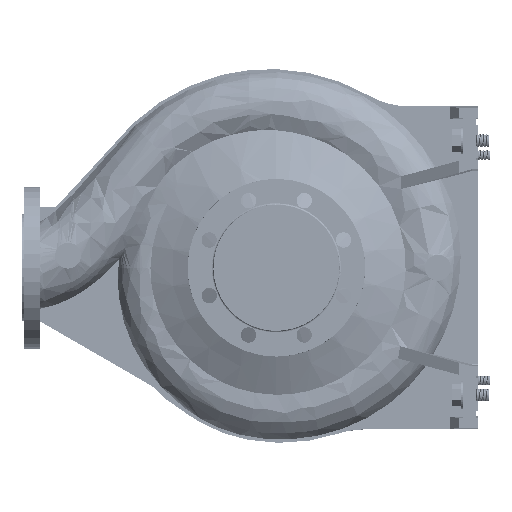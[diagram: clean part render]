
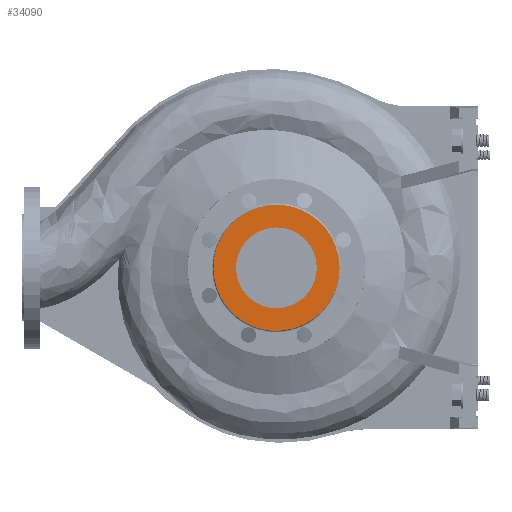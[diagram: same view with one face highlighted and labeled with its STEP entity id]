
A CAD part, left-side view. The second image highlights one B-rep face of the part: STEP entity #34090.
In plain terms, the highlighted planar face has unit normal (-1, 0, 0).
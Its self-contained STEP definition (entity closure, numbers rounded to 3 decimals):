
#8400 = CARTESIAN_POINT ( 'NONE',  ( -125., 156., 78. ) ) ;
#9596 = EDGE_CURVE ( 'NONE', #176977, #68919, #152512, .T. ) ;
#10715 = DIRECTION ( 'NONE',  ( 1., 0., 0. ) ) ;
#12800 = EDGE_LOOP ( 'NONE', ( #105235, #57014 ) ) ;
#24686 = AXIS2_PLACEMENT_3D ( 'NONE', #32736, #10715, #163891 ) ;
#27999 = CARTESIAN_POINT ( 'NONE',  ( -125., 156., -78. ) ) ;
#28378 = CARTESIAN_POINT ( 'NONE',  ( -125., 0., 0. ) ) ;
#32736 = CARTESIAN_POINT ( 'NONE',  ( -125., 0., 0. ) ) ;
#34090 = ADVANCED_FACE ( 'NONE', ( #75987, #94439 ), #183917, .T. ) ;
#37760 = CARTESIAN_POINT ( 'NONE',  ( -125., 50., 0. ) ) ;
#38413 = ORIENTED_EDGE ( 'NONE', *, *, #9596, .T. ) ;
#46788 = AXIS2_PLACEMENT_3D ( 'NONE', #28378, #84766, #196325 ) ;
#52557 = EDGE_CURVE ( 'NONE', #134102, #139238, #95772, .T. ) ;
#52778 = DIRECTION ( 'NONE',  ( -1., 0., 0. ) ) ;
#57014 = ORIENTED_EDGE ( 'NONE', *, *, #52557, .T. ) ;
#58149 = EDGE_LOOP ( 'NONE', ( #215854, #38413 ) ) ;
#68919 = VERTEX_POINT ( 'NONE', #91972 ) ;
#72026 = CARTESIAN_POINT ( 'NONE',  ( -125., 0., -78. ) ) ;
#72347 = DIRECTION ( 'NONE',  ( 0., 0., 1. ) ) ;
#75987 = FACE_BOUND ( 'NONE', #58149, .T. ) ;
#84766 = DIRECTION ( 'NONE',  ( 1., 0., 0. ) ) ;
#86754 = CARTESIAN_POINT ( 'NONE',  ( -125., 0., 78. ) ) ;
#91972 = CARTESIAN_POINT ( 'NONE',  ( -125., -50., 0. ) ) ;
#94439 = FACE_OUTER_BOUND ( 'NONE', #12800, .T. ) ;
#95772 =( BOUNDED_CURVE ( )  B_SPLINE_CURVE ( 3, ( #155207, #116038, #98849, #113676 ),
 .UNSPECIFIED., .F., .T. ) 
 B_SPLINE_CURVE_WITH_KNOTS ( ( 4, 4 ),
 ( 0., 0.245 ),
 .UNSPECIFIED. ) 
 CURVE ( )  GEOMETRIC_REPRESENTATION_ITEM ( )  RATIONAL_B_SPLINE_CURVE ( ( 0.957, 0.319, 0.319, 0.957 ) ) 
 REPRESENTATION_ITEM ( '' )  );
#98849 = CARTESIAN_POINT ( 'NONE',  ( -125., -156., 78. ) ) ;
#105235 = ORIENTED_EDGE ( 'NONE', *, *, #240401, .T. ) ;
#113676 = CARTESIAN_POINT ( 'NONE',  ( -125., 0., 78. ) ) ;
#116038 = CARTESIAN_POINT ( 'NONE',  ( -125., -156., -78. ) ) ;
#122877 = EDGE_CURVE ( 'NONE', #68919, #176977, #149872, .T. ) ;
#126357 = CARTESIAN_POINT ( 'NONE',  ( -125., -78.936, -78.936 ) ) ;
#134102 = VERTEX_POINT ( 'NONE', #72026 ) ;
#138357 = CARTESIAN_POINT ( 'NONE',  ( -125., 0., -78. ) ) ;
#139238 = VERTEX_POINT ( 'NONE', #86754 ) ;
#149872 = CIRCLE ( 'NONE', #24686, 50. ) ;
#152512 = CIRCLE ( 'NONE', #46788, 50. ) ;
#155207 = CARTESIAN_POINT ( 'NONE',  ( -125., 0., -78. ) ) ;
#163891 = DIRECTION ( 'NONE',  ( 0., -1., 0. ) ) ;
#176977 = VERTEX_POINT ( 'NONE', #37760 ) ;
#179844 =( BOUNDED_CURVE ( )  B_SPLINE_CURVE ( 3, ( #215566, #8400, #27999, #138357 ),
 .UNSPECIFIED., .F., .F. ) 
 B_SPLINE_CURVE_WITH_KNOTS ( ( 4, 4 ),
 ( 0., 0.245 ),
 .UNSPECIFIED. ) 
 CURVE ( )  GEOMETRIC_REPRESENTATION_ITEM ( )  RATIONAL_B_SPLINE_CURVE ( ( 0.957, 0.319, 0.319, 0.957 ) ) 
 REPRESENTATION_ITEM ( '' )  );
#183917 = PLANE ( 'NONE',  #239485 ) ;
#196325 = DIRECTION ( 'NONE',  ( 0., -1., 0. ) ) ;
#215566 = CARTESIAN_POINT ( 'NONE',  ( -125., 0., 78. ) ) ;
#215854 = ORIENTED_EDGE ( 'NONE', *, *, #122877, .T. ) ;
#239485 = AXIS2_PLACEMENT_3D ( 'NONE', #126357, #52778, #72347 ) ;
#240401 = EDGE_CURVE ( 'NONE', #139238, #134102, #179844, .T. ) ;
